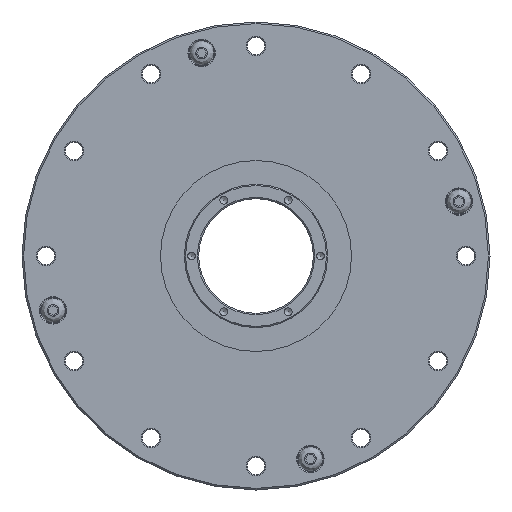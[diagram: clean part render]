
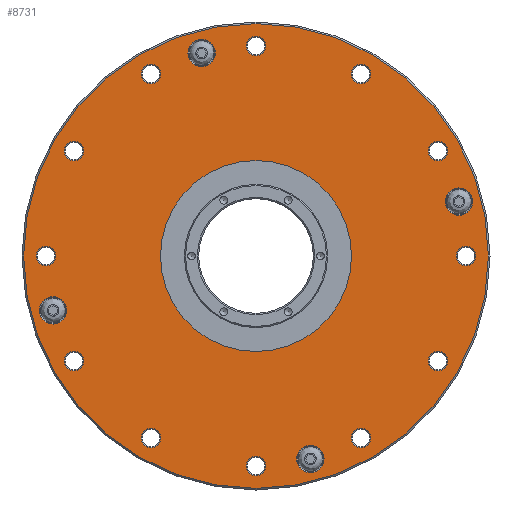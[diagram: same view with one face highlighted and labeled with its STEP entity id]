
A CAD part, front view. The second image highlights one B-rep face of the part: STEP entity #8731.
In plain terms, the highlighted planar face has unit normal (0, -1, 0).
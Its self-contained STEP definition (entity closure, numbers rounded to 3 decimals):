
#722=PLANE('',#12546);
#1572=FACE_OUTER_BOUND('',#2776,.T.);
#2759=EDGE_LOOP('',(#4879));
#2760=EDGE_LOOP('',(#4880));
#2761=EDGE_LOOP('',(#4881));
#2762=EDGE_LOOP('',(#4882));
#2763=EDGE_LOOP('',(#4883));
#2764=EDGE_LOOP('',(#4884));
#2765=EDGE_LOOP('',(#4885));
#2766=EDGE_LOOP('',(#4886));
#2767=EDGE_LOOP('',(#4887));
#2768=EDGE_LOOP('',(#4888));
#2769=EDGE_LOOP('',(#4889));
#2770=EDGE_LOOP('',(#4890));
#2771=EDGE_LOOP('',(#4891));
#2772=EDGE_LOOP('',(#4892));
#2773=EDGE_LOOP('',(#4893));
#2774=EDGE_LOOP('',(#4894));
#2775=EDGE_LOOP('',(#4895));
#2776=EDGE_LOOP('',(#4896));
#4879=ORIENTED_EDGE('',*,*,#6243,.T.);
#4880=ORIENTED_EDGE('',*,*,#6244,.T.);
#4881=ORIENTED_EDGE('',*,*,#6245,.T.);
#4882=ORIENTED_EDGE('',*,*,#6246,.T.);
#4883=ORIENTED_EDGE('',*,*,#6247,.T.);
#4884=ORIENTED_EDGE('',*,*,#6248,.T.);
#4885=ORIENTED_EDGE('',*,*,#6249,.T.);
#4886=ORIENTED_EDGE('',*,*,#6250,.T.);
#4887=ORIENTED_EDGE('',*,*,#6251,.T.);
#4888=ORIENTED_EDGE('',*,*,#6252,.T.);
#4889=ORIENTED_EDGE('',*,*,#6253,.T.);
#4890=ORIENTED_EDGE('',*,*,#6254,.T.);
#4891=ORIENTED_EDGE('',*,*,#6255,.T.);
#4892=ORIENTED_EDGE('',*,*,#6256,.T.);
#4893=ORIENTED_EDGE('',*,*,#6257,.T.);
#4894=ORIENTED_EDGE('',*,*,#6258,.T.);
#4895=ORIENTED_EDGE('',*,*,#6259,.T.);
#4896=ORIENTED_EDGE('',*,*,#6260,.T.);
#6243=EDGE_CURVE('',#11035,#11035,#7131,.T.);
#6244=EDGE_CURVE('',#11036,#11036,#7132,.T.);
#6245=EDGE_CURVE('',#11037,#11037,#7133,.T.);
#6246=EDGE_CURVE('',#11038,#11038,#7134,.T.);
#6247=EDGE_CURVE('',#11039,#11039,#7135,.T.);
#6248=EDGE_CURVE('',#11040,#11040,#7136,.T.);
#6249=EDGE_CURVE('',#11041,#11041,#7137,.T.);
#6250=EDGE_CURVE('',#11042,#11042,#7138,.T.);
#6251=EDGE_CURVE('',#11043,#11043,#7139,.T.);
#6252=EDGE_CURVE('',#11044,#11044,#7140,.T.);
#6253=EDGE_CURVE('',#11045,#11045,#7141,.T.);
#6254=EDGE_CURVE('',#11046,#11046,#7142,.T.);
#6255=EDGE_CURVE('',#11047,#11047,#7143,.T.);
#6256=EDGE_CURVE('',#11048,#11048,#7144,.T.);
#6257=EDGE_CURVE('',#11049,#11049,#7145,.T.);
#6258=EDGE_CURVE('',#11050,#11050,#7146,.T.);
#6259=EDGE_CURVE('',#11051,#11051,#7147,.T.);
#6260=EDGE_CURVE('',#11052,#11052,#7148,.T.);
#7131=CIRCLE('',#12528,30.);
#7132=CIRCLE('',#12529,4.3);
#7133=CIRCLE('',#12530,4.3);
#7134=CIRCLE('',#12531,4.3);
#7135=CIRCLE('',#12532,4.3);
#7136=CIRCLE('',#12533,3.05);
#7137=CIRCLE('',#12534,3.05);
#7138=CIRCLE('',#12535,3.05);
#7139=CIRCLE('',#12536,3.05);
#7140=CIRCLE('',#12537,3.05);
#7141=CIRCLE('',#12538,3.05);
#7142=CIRCLE('',#12539,3.05);
#7143=CIRCLE('',#12540,3.05);
#7144=CIRCLE('',#12541,3.05);
#7145=CIRCLE('',#12542,3.05);
#7146=CIRCLE('',#12543,3.05);
#7147=CIRCLE('',#12544,3.05);
#7148=CIRCLE('',#12545,73.);
#8731=ADVANCED_FACE('',(#9786,#9787,#9788,#9789,#9790,#9791,#9792,#9793,
#9794,#9795,#9796,#9797,#9798,#9799,#9800,#9801,#9802,#1572),#722,.F.);
#9786=FACE_BOUND('',#2759,.T.);
#9787=FACE_BOUND('',#2760,.T.);
#9788=FACE_BOUND('',#2761,.T.);
#9789=FACE_BOUND('',#2762,.T.);
#9790=FACE_BOUND('',#2763,.T.);
#9791=FACE_BOUND('',#2764,.T.);
#9792=FACE_BOUND('',#2765,.T.);
#9793=FACE_BOUND('',#2766,.T.);
#9794=FACE_BOUND('',#2767,.T.);
#9795=FACE_BOUND('',#2768,.T.);
#9796=FACE_BOUND('',#2769,.T.);
#9797=FACE_BOUND('',#2770,.T.);
#9798=FACE_BOUND('',#2771,.T.);
#9799=FACE_BOUND('',#2772,.T.);
#9800=FACE_BOUND('',#2773,.T.);
#9801=FACE_BOUND('',#2774,.T.);
#9802=FACE_BOUND('',#2775,.T.);
#11035=VERTEX_POINT('',#18824);
#11036=VERTEX_POINT('',#18826);
#11037=VERTEX_POINT('',#18828);
#11038=VERTEX_POINT('',#18830);
#11039=VERTEX_POINT('',#18832);
#11040=VERTEX_POINT('',#18834);
#11041=VERTEX_POINT('',#18836);
#11042=VERTEX_POINT('',#18838);
#11043=VERTEX_POINT('',#18840);
#11044=VERTEX_POINT('',#18842);
#11045=VERTEX_POINT('',#18844);
#11046=VERTEX_POINT('',#18846);
#11047=VERTEX_POINT('',#18848);
#11048=VERTEX_POINT('',#18850);
#11049=VERTEX_POINT('',#18852);
#11050=VERTEX_POINT('',#18854);
#11051=VERTEX_POINT('',#18856);
#11052=VERTEX_POINT('',#18858);
#12528=AXIS2_PLACEMENT_3D('',#18823,#15614,#15615);
#12529=AXIS2_PLACEMENT_3D('',#18825,#15616,#15617);
#12530=AXIS2_PLACEMENT_3D('',#18827,#15618,#15619);
#12531=AXIS2_PLACEMENT_3D('',#18829,#15620,#15621);
#12532=AXIS2_PLACEMENT_3D('',#18831,#15622,#15623);
#12533=AXIS2_PLACEMENT_3D('',#18833,#15624,#15625);
#12534=AXIS2_PLACEMENT_3D('',#18835,#15626,#15627);
#12535=AXIS2_PLACEMENT_3D('',#18837,#15628,#15629);
#12536=AXIS2_PLACEMENT_3D('',#18839,#15630,#15631);
#12537=AXIS2_PLACEMENT_3D('',#18841,#15632,#15633);
#12538=AXIS2_PLACEMENT_3D('',#18843,#15634,#15635);
#12539=AXIS2_PLACEMENT_3D('',#18845,#15636,#15637);
#12540=AXIS2_PLACEMENT_3D('',#18847,#15638,#15639);
#12541=AXIS2_PLACEMENT_3D('',#18849,#15640,#15641);
#12542=AXIS2_PLACEMENT_3D('',#18851,#15642,#15643);
#12543=AXIS2_PLACEMENT_3D('',#18853,#15644,#15645);
#12544=AXIS2_PLACEMENT_3D('',#18855,#15646,#15647);
#12545=AXIS2_PLACEMENT_3D('',#18857,#15648,#15649);
#12546=AXIS2_PLACEMENT_3D('',#18859,#15650,#15651);
#15614=DIRECTION('',(0.,1.,0.));
#15615=DIRECTION('',(0.,0.,1.));
#15616=DIRECTION('',(0.,1.,0.));
#15617=DIRECTION('',(0.,0.,1.));
#15618=DIRECTION('',(0.,1.,0.));
#15619=DIRECTION('',(0.,0.,1.));
#15620=DIRECTION('',(0.,1.,0.));
#15621=DIRECTION('',(0.,0.,1.));
#15622=DIRECTION('',(0.,1.,0.));
#15623=DIRECTION('',(0.,0.,1.));
#15624=DIRECTION('',(0.,1.,0.));
#15625=DIRECTION('',(0.,0.,1.));
#15626=DIRECTION('',(0.,1.,0.));
#15627=DIRECTION('',(0.,0.,1.));
#15628=DIRECTION('',(0.,1.,0.));
#15629=DIRECTION('',(0.,0.,1.));
#15630=DIRECTION('',(0.,1.,0.));
#15631=DIRECTION('',(0.,0.,1.));
#15632=DIRECTION('',(0.,1.,0.));
#15633=DIRECTION('',(0.,0.,1.));
#15634=DIRECTION('',(0.,1.,0.));
#15635=DIRECTION('',(0.,0.,1.));
#15636=DIRECTION('',(0.,1.,0.));
#15637=DIRECTION('',(0.,0.,1.));
#15638=DIRECTION('',(0.,1.,0.));
#15639=DIRECTION('',(0.,0.,1.));
#15640=DIRECTION('',(0.,1.,0.));
#15641=DIRECTION('',(0.,0.,1.));
#15642=DIRECTION('',(0.,1.,0.));
#15643=DIRECTION('',(0.,0.,1.));
#15644=DIRECTION('',(0.,1.,0.));
#15645=DIRECTION('',(0.,0.,1.));
#15646=DIRECTION('',(0.,1.,0.));
#15647=DIRECTION('',(0.,0.,1.));
#15648=DIRECTION('',(0.,-1.,0.));
#15649=DIRECTION('',(0.,0.,1.));
#15650=DIRECTION('',(0.,1.,0.));
#15651=DIRECTION('',(0.,0.,1.));
#18823=CARTESIAN_POINT('',(0.,-47.,0.));
#18824=CARTESIAN_POINT('',(0.,-47.,30.));
#18825=CARTESIAN_POINT('',(-63.751,-47.,-17.082));
#18826=CARTESIAN_POINT('',(-63.751,-47.,-12.782));
#18827=CARTESIAN_POINT('',(-17.082,-47.,63.751));
#18828=CARTESIAN_POINT('',(-17.082,-47.,68.051));
#18829=CARTESIAN_POINT('',(63.751,-47.,17.082));
#18830=CARTESIAN_POINT('',(63.751,-47.,21.382));
#18831=CARTESIAN_POINT('',(17.082,-47.,-63.751));
#18832=CARTESIAN_POINT('',(17.082,-47.,-59.451));
#18833=CARTESIAN_POINT('',(57.158,-47.,33.));
#18834=CARTESIAN_POINT('',(57.158,-47.,36.05));
#18835=CARTESIAN_POINT('',(33.,-47.,57.158));
#18836=CARTESIAN_POINT('',(33.,-47.,60.208));
#18837=CARTESIAN_POINT('',(0.,-47.,66.));
#18838=CARTESIAN_POINT('',(0.,-47.,69.05));
#18839=CARTESIAN_POINT('',(-33.,-47.,57.158));
#18840=CARTESIAN_POINT('',(-33.,-47.,60.208));
#18841=CARTESIAN_POINT('',(-57.158,-47.,33.));
#18842=CARTESIAN_POINT('',(-57.158,-47.,36.05));
#18843=CARTESIAN_POINT('',(-66.,-47.,0.));
#18844=CARTESIAN_POINT('',(-66.,-47.,3.05));
#18845=CARTESIAN_POINT('',(-57.158,-47.,-33.));
#18846=CARTESIAN_POINT('',(-57.158,-47.,-29.95));
#18847=CARTESIAN_POINT('',(-33.,-47.,-57.158));
#18848=CARTESIAN_POINT('',(-33.,-47.,-54.108));
#18849=CARTESIAN_POINT('',(0.,-47.,-66.));
#18850=CARTESIAN_POINT('',(0.,-47.,-62.95));
#18851=CARTESIAN_POINT('',(33.,-47.,-57.158));
#18852=CARTESIAN_POINT('',(33.,-47.,-54.108));
#18853=CARTESIAN_POINT('',(66.,-47.,0.));
#18854=CARTESIAN_POINT('',(66.,-47.,3.05));
#18855=CARTESIAN_POINT('',(57.158,-47.,-33.));
#18856=CARTESIAN_POINT('',(57.158,-47.,-29.95));
#18857=CARTESIAN_POINT('',(0.,-47.,0.));
#18858=CARTESIAN_POINT('',(0.,-47.,73.));
#18859=CARTESIAN_POINT('',(-71.,-47.,0.));
